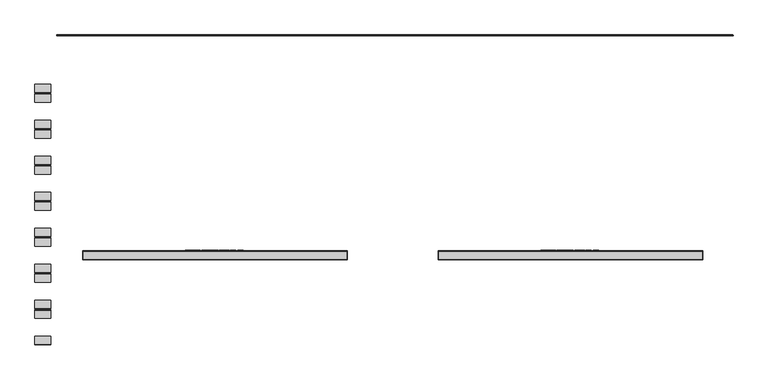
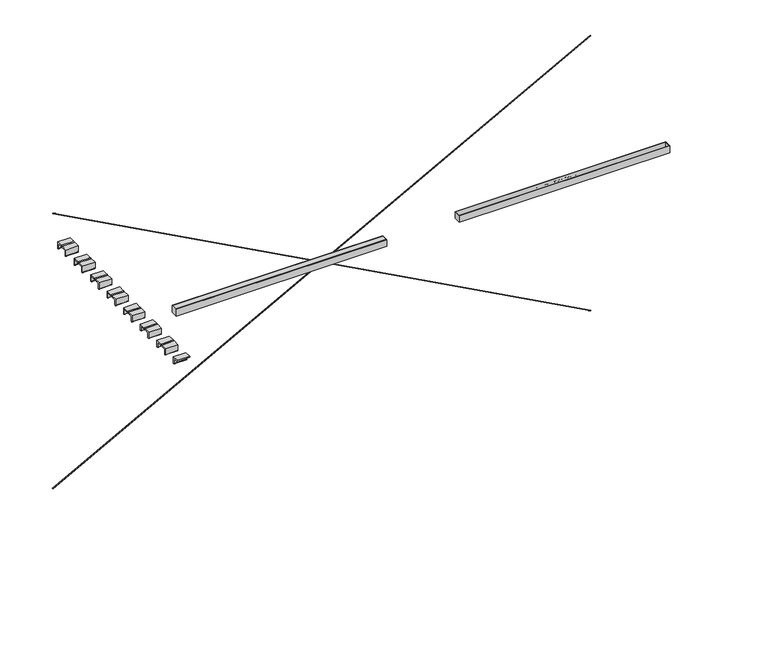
"""IFC4 building model written with IfcOpenShell, lengths in millimetres: proxy geometry, Ponto de ônibus_final : Ponto de ônibus_final."""

from ifc_helpers import new_model, si_unit, point, frame, frame_2d, origin, place, context, project, spatial, polyline, circle_curve, trimmed, segment, composite_curve, outline, extrude, source, transform, mapped, element, save


def generic_models_1a11b9a9(model_context):
    return source(origin(), model_context, "Body", "SweptSolid", [
        extrude(outline(polyline([(2179.7607837, 371.6538462), (2179.7607837, 370.4230769), (2178.5288126, 370.0264423), (2177.7499664, 369.0576923), (2177.4530914, 367.5817308), (2177.677851, 366.2956731), (2178.2956395, 365.4651442), (2179.1213606, 365.1923077), (2179.8893895, 365.3966346), (2180.4482837, 366.2331731), (2180.9182356, 368.0252404), (2181.5252068, 369.9543269), (2182.4410722, 371.0012019), (2183.6646299, 371.3461538), (2185.0576587, 370.9194712), (2186.0408318, 369.6730769), (2186.3761683, 367.8485577), (2186.0252068, 365.9014423), (2184.9939568, 364.6033654), (2183.4530914, 364.1153846), (2183.4530914, 365.3461538), (2184.7175145, 366.0432692), (2185.1453991, 367.8004808), (2184.7223222, 369.5625), (2183.7006876, 370.1153846), (2182.8473222, 369.7235577), (2182.1598222, 367.7139423), (2181.5420337, 365.5360577), (2180.5444376, 364.3449519), (2179.1526106, 363.9615385), (2177.6802549, 364.4026442), (2176.6057356, 365.671875), (2176.2223222, 367.5336538), (2176.6357837, 369.7319712), (2177.880976, 371.1225962), (2179.7607837, 371.6538462)])), frame((0.0, -960.0, 0.0), z_axis=(0.0, 1.0, 0.0), x_axis=(0.0, 0.0, 1.0)), (0.0, 0.0, 1.0), 2.0),
        extrude(outline(polyline([(2176.3761683, 359.6538462), (2184.9915529, 359.6538462), (2184.9915529, 362.8846154), (2186.2223222, 362.8846154), (2186.2223222, 355.1923077), (2184.9915529, 355.1923077), (2184.9915529, 358.4230769), (2176.3761683, 358.4230769), (2176.3761683, 359.6538462)])), frame((0.0, -960.0, 0.0), z_axis=(0.0, 1.0, 0.0), x_axis=(0.0, 0.0, 1.0)), (0.0, 0.0, 1.0), 2.0),
        extrude(outline(polyline([(2176.3761683, 353.8076923), (2186.2223222, 353.8076923), (2186.2223222, 352.5769231), (2177.6069376, 352.5769231), (2177.6069376, 347.6538462), (2176.3761683, 347.6538462), (2176.3761683, 353.8076923)])), frame((0.0, -960.0, 0.0), z_axis=(0.0, 1.0, 0.0), x_axis=(0.0, 0.0, 1.0)), (0.0, 0.0, 1.0), 2.0),
        extrude(outline(polyline([(2176.3761683, 342.4230769), (2186.2223222, 342.4230769), (2186.2223222, 340.3052885), (2179.2824183, 338.2908654), (2177.8328991, 337.8846154), (2179.4026106, 337.4447115), (2186.2223222, 335.4639423), (2186.2223222, 333.3461538), (2176.3761683, 333.3461538), (2176.3761683, 334.5769231), (2184.9915529, 334.5769231), (2176.3761683, 337.0504808), (2176.3761683, 338.71875), (2184.9915529, 341.1923077), (2176.3761683, 341.1923077), (2176.3761683, 342.4230769)])), frame((0.0, -960.0, 0.0), z_axis=(0.0, 1.0, 0.0), x_axis=(0.0, 0.0, 1.0)), (0.0, 0.0, 1.0), 2.0),
        extrude(outline(polyline([(329.8076923, -958.0), (331.0384615, -958.0), (331.0384615, -960.0), (329.8076923, -960.0), (329.8076923, -958.0)])), frame((0.0, 0.0, 2176.3761683), z_axis=(0.0, 0.0, 1.0), x_axis=(1.0, 0.0, 0.0)), (0.0, 0.0, 1.0), 9.8461538),
        extrude(outline(polyline([(2179.8761683, 320.4230769), (2179.5588606, 319.1923077), (2177.0768895, 320.6514423), (2176.2223222, 323.2283654), (2176.8689568, 325.7896635), (2178.7415529, 327.2920673), (2181.3737645, 327.8076923), (2184.0492452, 327.2247596), (2185.7836202, 325.5673077), (2186.3761683, 323.2019231), (2185.6093414, 320.7367788), (2183.4506876, 319.3461538), (2183.1574183, 320.5769231), (2184.6706395, 321.5865385), (2185.1453991, 323.25), (2184.6189568, 325.1754808), (2183.2054952, 326.2632212), (2181.3761683, 326.5769231), (2179.255976, 326.2055288), (2177.9014087, 325.0492788), (2177.4530914, 323.3509615), (2178.0636683, 321.4675481), (2179.8761683, 320.4230769)])), frame((0.0, -960.0, 0.0), z_axis=(0.0, 1.0, 0.0), x_axis=(0.0, 0.0, 1.0)), (0.0, 0.0, 1.0), 2.0),
        extrude(outline(polyline([(2176.3761683, 317.5), (2186.2223222, 317.5), (2186.2223222, 313.2572115), (2185.9566972, 311.2872596), (2185.0167933, 310.2103365), (2183.5276106, 309.8076923), (2181.7535722, 310.4747596), (2180.8377068, 312.5360577), (2180.3112645, 311.8365385), (2179.0444376, 310.8389423), (2176.3761683, 309.1971154), (2176.3761683, 310.6274038), (2178.4170337, 311.9086538), (2179.7679952, 312.8341346), (2180.4062164, 313.484375), (2180.6838606, 316.2692308), (2176.3761683, 316.2692308), (2176.3761683, 317.5)]), holes=[polyline([(2181.9146299, 316.2692308), (2181.9146299, 313.5144231), (2182.0889087, 312.109375), (2182.646601, 311.3112981), (2183.4819376, 311.0384615), (2184.5660722, 311.5588942), (2184.9915529, 313.2043269), (2184.9915529, 316.2692308), (2181.9146299, 316.2692308)])]), frame((0.0, -960.0, 0.0), z_axis=(0.0, 1.0, 0.0), x_axis=(0.0, 0.0, 1.0)), (0.0, 0.0, 1.0), 2.0),
        extrude(outline(polyline([(2181.1694376, 308.1153846), (2184.9939568, 306.8028846), (2186.3761683, 303.4158654), (2185.7271299, 300.9663462), (2183.9170337, 299.3028846), (2181.2824183, 298.7307692), (2178.6117452, 299.3329327), (2176.8280914, 301.0396635), (2176.2223222, 303.4230769), (2176.8917933, 305.8990385), (2178.7187164, 307.5528846), (2181.1694376, 308.1153846)]), holes=[polyline([(2181.1574183, 306.8846154), (2178.443476, 305.9002404), (2177.4530914, 303.4302885), (2178.4530914, 300.9387019), (2181.2920337, 299.9615385), (2183.3232837, 300.3798077), (2184.6682356, 301.6021635), (2185.1453991, 303.4086538), (2184.2259279, 305.8581731), (2181.1574183, 306.8846154)])]), frame((0.0, -960.0, 0.0), z_axis=(0.0, 1.0, 0.0), x_axis=(0.0, 0.0, 1.0)), (0.0, 0.0, 1.0), 2.0),
        extrude(outline(polyline([(2176.3761683, 293.1923077), (2186.2223222, 293.1923077), (2186.2223222, 288.9495192), (2185.9566972, 286.9795673), (2185.0167933, 285.9026442), (2183.5276106, 285.5), (2181.7535722, 286.1670673), (2180.8377068, 288.2283654), (2180.3112645, 287.5288462), (2179.0444376, 286.53125), (2176.3761683, 284.8894231), (2176.3761683, 286.3197115), (2178.4170337, 287.6009615), (2179.7679952, 288.5264423), (2180.4062164, 289.1766827), (2180.6838606, 291.9615385), (2176.3761683, 291.9615385), (2176.3761683, 293.1923077)]), holes=[polyline([(2181.9146299, 291.9615385), (2181.9146299, 289.2067308), (2182.0889087, 287.8016827), (2182.646601, 287.0036058), (2183.4819376, 286.7307692), (2184.5660722, 287.2512019), (2184.9915529, 288.8966346), (2184.9915529, 291.9615385), (2181.9146299, 291.9615385)])]), frame((0.0, -960.0, 0.0), z_axis=(0.0, 1.0, 0.0), x_axis=(0.0, 0.0, 1.0)), (0.0, 0.0, 1.0), 2.0),
        extrude(outline(polyline([(2176.3761683, 283.3461538), (2186.2223222, 283.3461538), (2186.2223222, 276.2692308), (2184.9915529, 276.2692308), (2184.9915529, 282.1153846), (2182.068476, 282.1153846), (2182.068476, 276.5769231), (2180.8377068, 276.5769231), (2180.8377068, 282.1153846), (2177.6069376, 282.1153846), (2177.6069376, 276.1153846), (2176.3761683, 276.1153846), (2176.3761683, 283.3461538)])), frame((0.0, -960.0, 0.0), z_axis=(0.0, 1.0, 0.0), x_axis=(0.0, 0.0, 1.0)), (0.0, 0.0, 1.0), 2.0),
        extrude(outline(polyline([(2179.8761683, 267.3461538), (2179.5588606, 266.1153846), (2177.0768895, 267.5745192), (2176.2223222, 270.1514423), (2176.8689568, 272.7127404), (2178.7415529, 274.2151442), (2181.3737645, 274.7307692), (2184.0492452, 274.1478365), (2185.7836202, 272.4903846), (2186.3761683, 270.125), (2185.6093414, 267.6598558), (2183.4506876, 266.2692308), (2183.1574183, 267.5), (2184.6706395, 268.5096154), (2185.1453991, 270.1730769), (2184.6189568, 272.0985577), (2183.2054952, 273.1862981), (2181.3761683, 273.5), (2179.255976, 273.1286058), (2177.9014087, 271.9723558), (2177.4530914, 270.2740385), (2178.0636683, 268.390625), (2179.8761683, 267.3461538)])), frame((0.0, -960.0, 0.0), z_axis=(0.0, 1.0, 0.0), x_axis=(0.0, 0.0, 1.0)), (0.0, 0.0, 1.0), 2.0),
        extrude(outline(polyline([(2176.3761683, 264.4230769), (2186.2223222, 264.4230769), (2186.2223222, 257.3461538), (2184.9915529, 257.3461538), (2184.9915529, 263.1923077), (2182.068476, 263.1923077), (2182.068476, 257.6538462), (2180.8377068, 257.6538462), (2180.8377068, 263.1923077), (2177.6069376, 263.1923077), (2177.6069376, 257.1923077), (2176.3761683, 257.1923077), (2176.3761683, 264.4230769)])), frame((0.0, -960.0, 0.0), z_axis=(0.0, 1.0, 0.0), x_axis=(0.0, 0.0, 1.0)), (0.0, 0.0, 1.0), 2.0),
        extrude(outline(polyline([(2179.7607837, 255.8076923), (2179.7607837, 254.5769231), (2178.5288126, 254.1802885), (2177.7499664, 253.2115385), (2177.4530914, 251.7355769), (2177.677851, 250.4495192), (2178.2956395, 249.6189904), (2179.1213606, 249.3461538), (2179.8893895, 249.5504808), (2180.4482837, 250.3870192), (2180.9182356, 252.1790865), (2181.5252068, 254.1081731), (2182.4410722, 255.1550481), (2183.6646299, 255.5), (2185.0576587, 255.0733173), (2186.0408318, 253.8269231), (2186.3761683, 252.0024038), (2186.0252068, 250.0552885), (2184.9939568, 248.7572115), (2183.4530914, 248.2692308), (2183.4530914, 249.5), (2184.7175145, 250.1971154), (2185.1453991, 251.9543269), (2184.7223222, 253.7163462), (2183.7006876, 254.2692308), (2182.8473222, 253.8774038), (2182.1598222, 251.8677885), (2181.5420337, 249.6899038), (2180.5444376, 248.4987981), (2179.1526106, 248.1153846), (2177.6802549, 248.5564904), (2176.6057356, 249.8257212), (2176.2223222, 251.6875), (2176.6357837, 253.8858173), (2177.880976, 255.2764423), (2179.7607837, 255.8076923)])), frame((0.0, -960.0, 0.0), z_axis=(0.0, 1.0, 0.0), x_axis=(0.0, 0.0, 1.0)), (0.0, 0.0, 1.0), 2.0),
        extrude(outline(polyline([(2179.7607837, 246.7307692), (2179.7607837, 245.5), (2178.5288126, 245.1033654), (2177.7499664, 244.1346154), (2177.4530914, 242.6586538), (2177.677851, 241.3725962), (2178.2956395, 240.5420673), (2179.1213606, 240.2692308), (2179.8893895, 240.4735577), (2180.4482837, 241.3100962), (2180.9182356, 243.1021635), (2181.5252068, 245.03125), (2182.4410722, 246.078125), (2183.6646299, 246.4230769), (2185.0576587, 245.9963942), (2186.0408318, 244.75), (2186.3761683, 242.9254808), (2186.0252068, 240.9783654), (2184.9939568, 239.6802885), (2183.4530914, 239.1923077), (2183.4530914, 240.4230769), (2184.7175145, 241.1201923), (2185.1453991, 242.8774038), (2184.7223222, 244.6394231), (2183.7006876, 245.1923077), (2182.8473222, 244.8004808), (2182.1598222, 242.7908654), (2181.5420337, 240.6129808), (2180.5444376, 239.421875), (2179.1526106, 239.0384615), (2177.6802549, 239.4795673), (2176.6057356, 240.7487981), (2176.2223222, 242.6105769), (2176.6357837, 244.8088942), (2177.880976, 246.1995192), (2179.7607837, 246.7307692)])), frame((0.0, -960.0, 0.0), z_axis=(0.0, 1.0, 0.0), x_axis=(0.0, 0.0, 1.0)), (0.0, 0.0, 1.0), 2.0),
        extrude(outline(polyline([(2176.3761683, 237.1923077), (2186.2223222, 237.1923077), (2186.2223222, 230.1153846), (2184.9915529, 230.1153846), (2184.9915529, 235.9615385), (2182.068476, 235.9615385), (2182.068476, 230.4230769), (2180.8377068, 230.4230769), (2180.8377068, 235.9615385), (2177.6069376, 235.9615385), (2177.6069376, 229.9615385), (2176.3761683, 229.9615385), (2176.3761683, 237.1923077)])), frame((0.0, -960.0, 0.0), z_axis=(0.0, 1.0, 0.0), x_axis=(0.0, 0.0, 1.0)), (0.0, 0.0, 1.0), 2.0),
        extrude(outline(polyline([(2176.3761683, 228.1153846), (2186.2223222, 228.1153846), (2186.2223222, 224.71875), (2186.0804952, 222.9615385), (2185.3761683, 221.5144231), (2183.693476, 220.3485577), (2181.3521299, 219.9615385), (2179.365351, 220.2235577), (2177.9314568, 220.8966346), (2177.0384279, 221.7956731), (2176.5444376, 222.9723558), (2176.3761683, 224.5552885), (2176.3761683, 228.1153846)]), holes=[polyline([(2177.6069376, 226.8846154), (2177.6069376, 224.7067308), (2177.7848222, 223.1225962), (2178.287226, 222.2091346), (2179.5095818, 221.4603365), (2181.3713606, 221.1923077), (2183.7030914, 221.7175481), (2184.7944376, 222.9951923), (2184.9915529, 224.7403846), (2184.9915529, 226.8846154), (2177.6069376, 226.8846154)])]), frame((0.0, -960.0, 0.0), z_axis=(0.0, 1.0, 0.0), x_axis=(0.0, 0.0, 1.0)), (0.0, 0.0, 1.0), 2.0),
        extrude(outline(polyline([(2176.3761683, 214.4230769), (2186.2223222, 214.4230769), (2186.2223222, 212.3052885), (2179.2824183, 210.2908654), (2177.8328991, 209.8846154), (2179.4026106, 209.4447115), (2186.2223222, 207.4639423), (2186.2223222, 205.3461538), (2176.3761683, 205.3461538), (2176.3761683, 206.5769231), (2184.9915529, 206.5769231), (2176.3761683, 209.0504808), (2176.3761683, 210.71875), (2184.9915529, 213.1923077), (2176.3761683, 213.1923077), (2176.3761683, 214.4230769)])), frame((0.0, -960.0, 0.0), z_axis=(0.0, 1.0, 0.0), x_axis=(0.0, 0.0, 1.0)), (0.0, 0.0, 1.0), 2.0),
        extrude(outline(polyline([(2181.1694376, 203.6538462), (2184.9939568, 202.3413462), (2186.3761683, 198.9543269), (2185.7271299, 196.5048077), (2183.9170337, 194.8413462), (2181.2824183, 194.2692308), (2178.6117452, 194.8713942), (2176.8280914, 196.578125), (2176.2223222, 198.9615385), (2176.8917933, 201.4375), (2178.7187164, 203.0913462), (2181.1694376, 203.6538462)]), holes=[polyline([(2181.1574183, 202.4230769), (2178.443476, 201.4387019), (2177.4530914, 198.96875), (2178.4530914, 196.4771635), (2181.2920337, 195.5), (2183.3232837, 195.9182692), (2184.6682356, 197.140625), (2185.1453991, 198.9471154), (2184.2259279, 201.3966346), (2181.1574183, 202.4230769)])]), frame((0.0, -960.0, 0.0), z_axis=(0.0, 1.0, 0.0), x_axis=(0.0, 0.0, 1.0)), (0.0, 0.0, 1.0), 2.0),
        extrude(outline(polyline([(2186.2223222, 186.1153846), (2186.2223222, 184.8846154), (2180.5420337, 184.8846154), (2178.1874664, 185.21875), (2176.7691972, 186.4230769), (2176.2223222, 188.7067308), (2176.6982837, 190.9555288), (2178.0768895, 192.203125), (2180.5420337, 192.5769231), (2186.2223222, 192.5769231), (2186.2223222, 191.3461538), (2180.5853029, 191.3461538), (2178.709101, 191.1033654), (2177.7800145, 190.2692308), (2177.4530914, 188.8221154), (2178.099726, 186.7379808), (2180.5853029, 186.1153846), (2186.2223222, 186.1153846)])), frame((0.0, -960.0, 0.0), z_axis=(0.0, 1.0, 0.0), x_axis=(0.0, 0.0, 1.0)), (0.0, 0.0, 1.0), 2.0),
        extrude(outline(polyline([(2176.3761683, 182.7307692), (2186.2223222, 182.7307692), (2186.2223222, 181.4134615), (2178.4218414, 176.2692308), (2186.2223222, 176.2692308), (2186.2223222, 175.0384615), (2176.3761683, 175.0384615), (2176.3761683, 176.3557692), (2184.1790529, 181.5), (2176.3761683, 181.5), (2176.3761683, 182.7307692)])), frame((0.0, -960.0, 0.0), z_axis=(0.0, 1.0, 0.0), x_axis=(0.0, 0.0, 1.0)), (0.0, 0.0, 1.0), 2.0),
        extrude(outline(polyline([(2176.3761683, 170.4230769), (2184.9915529, 170.4230769), (2184.9915529, 173.6538462), (2186.2223222, 173.6538462), (2186.2223222, 165.9615385), (2184.9915529, 165.9615385), (2184.9915529, 169.1923077), (2176.3761683, 169.1923077), (2176.3761683, 170.4230769)])), frame((0.0, -960.0, 0.0), z_axis=(0.0, 1.0, 0.0), x_axis=(0.0, 0.0, 1.0)), (0.0, 0.0, 1.0), 2.0),
        extrude(outline(polyline([(2176.3761683, 164.5769231), (2186.2223222, 164.5769231), (2186.2223222, 157.5), (2184.9915529, 157.5), (2184.9915529, 163.3461538), (2182.068476, 163.3461538), (2182.068476, 157.8076923), (2180.8377068, 157.8076923), (2180.8377068, 163.3461538), (2177.6069376, 163.3461538), (2177.6069376, 157.3461538), (2176.3761683, 157.3461538), (2176.3761683, 164.5769231)])), frame((0.0, -960.0, 0.0), z_axis=(0.0, 1.0, 0.0), x_axis=(0.0, 0.0, 1.0)), (0.0, 0.0, 1.0), 2.0),
        extrude(outline(polyline([(2176.3761683, 155.5), (2186.2223222, 155.5), (2186.2223222, 152.1033654), (2186.0804952, 150.3461538), (2185.3761683, 148.8990385), (2183.693476, 147.7331731), (2181.3521299, 147.3461538), (2179.365351, 147.6081731), (2177.9314568, 148.28125), (2177.0384279, 149.1802885), (2176.5444376, 150.3569712), (2176.3761683, 151.9399038), (2176.3761683, 155.5)]), holes=[polyline([(2177.6069376, 154.2692308), (2177.6069376, 152.0913462), (2177.7848222, 150.5072115), (2178.287226, 149.59375), (2179.5095818, 148.8449519), (2181.3713606, 148.5769231), (2183.7030914, 149.1021635), (2184.7944376, 150.3798077), (2184.9915529, 152.125), (2184.9915529, 154.2692308), (2177.6069376, 154.2692308)])]), frame((0.0, -960.0, 0.0), z_axis=(0.0, 1.0, 0.0), x_axis=(0.0, 0.0, 1.0)), (0.0, 0.0, 1.0), 2.0),
        extrude(outline(polyline([(2176.3761683, 405.9230769), (2186.2223222, 405.9230769), (2186.2223222, 398.8461538), (2184.9915529, 398.8461538), (2184.9915529, 404.6923077), (2182.068476, 404.6923077), (2182.068476, 399.1538462), (2180.8377068, 399.1538462), (2180.8377068, 404.6923077), (2177.6069376, 404.6923077), (2177.6069376, 398.6923077), (2176.3761683, 398.6923077), (2176.3761683, 405.9230769)])), frame((0.0, -960.0, 0.0), z_axis=(0.0, 1.0, 0.0), x_axis=(0.0, 0.0, 1.0)), (0.0, 0.0, 1.0), 2.0),
        extrude(outline(polyline([(2176.3761683, 397.9927885), (2186.2223222, 394.0625), (2186.2223222, 393.0144231), (2176.3761683, 389.0841346), (2176.3761683, 390.3846154), (2179.4530914, 391.5120192), (2179.4530914, 395.5673077), (2176.3761683, 396.6923077), (2176.3761683, 397.9927885)]), holes=[polyline([(2180.6838606, 395.1153846), (2180.6838606, 391.9615385), (2183.1045337, 392.8485577), (2184.9915529, 393.5384615), (2183.3160722, 394.1514423), (2180.6838606, 395.1153846)])]), frame((0.0, -960.0, 0.0), z_axis=(0.0, 1.0, 0.0), x_axis=(0.0, 0.0, 1.0)), (0.0, 0.0, 1.0), 2.0),
        extrude(outline(polyline([(2176.3761683, 387.7692308), (2186.2223222, 387.7692308), (2186.2223222, 380.6923077), (2184.9915529, 380.6923077), (2184.9915529, 386.5384615), (2182.068476, 386.5384615), (2182.068476, 381.0), (2180.8377068, 381.0), (2180.8377068, 386.5384615), (2177.6069376, 386.5384615), (2177.6069376, 380.5384615), (2176.3761683, 380.5384615), (2176.3761683, 387.7692308)])), frame((0.0, -960.0, 0.0), z_axis=(0.0, 1.0, 0.0), x_axis=(0.0, 0.0, 1.0)), (0.0, 0.0, 1.0), 2.0),
        extrude(outline(polyline([(864.5, -997.0), (-305.5, -997.0), (-305.5, -963.0), (864.5, -963.0), (864.5, -997.0)])), frame((0.0, 0.0, 2160.0), z_axis=(0.0, 0.0, 1.0), x_axis=(1.0, 0.0, 0.0)), (0.0, 0.0, 1.0), 5.4682593),
        extrude(outline(polyline([(867.5, -1000.0), (-308.5, -1000.0), (-308.5, -960.0), (867.5, -960.0), (867.5, -1000.0)]), holes=[polyline([(864.5, -997.0), (864.5, -963.0), (-305.5, -963.0), (-305.5, -997.0), (864.5, -997.0)])]), frame((0.0, 0.0, 2160.0), z_axis=(0.0, 0.0, 1.0), x_axis=(1.0, 0.0, 0.0)), (0.0, 0.0, 1.0), 40.0),
        extrude(outline(polyline([(-715.0, -997.0), (-1885.0, -997.0), (-1885.0, -963.0), (-715.0, -963.0), (-715.0, -997.0)])), frame((0.0, 0.0, 2198.5), z_axis=(0.0, 0.0, 1.0), x_axis=(1.0, 0.0, 0.0)), (0.0, 0.0, 1.0), 1.5),
        extrude(outline(polyline([(2179.7607837, -1207.8461538), (2179.7607837, -1209.0769231), (2178.5288126, -1209.4735577), (2177.7499664, -1210.4423077), (2177.4530914, -1211.9182692), (2177.677851, -1213.2043269), (2178.2956395, -1214.0348558), (2179.1213606, -1214.3076923), (2179.8893895, -1214.1033654), (2180.4482837, -1213.2668269), (2180.9182356, -1211.4747596), (2181.5252068, -1209.5456731), (2182.4410722, -1208.4987981), (2183.6646299, -1208.1538462), (2185.0576587, -1208.5805288), (2186.0408318, -1209.8269231), (2186.3761683, -1211.6514423), (2186.0252068, -1213.5985577), (2184.9939568, -1214.8966346), (2183.4530914, -1215.3846154), (2183.4530914, -1214.1538462), (2184.7175145, -1213.4567308), (2185.1453991, -1211.6995192), (2184.7223222, -1209.9375), (2183.7006876, -1209.3846154), (2182.8473222, -1209.7764423), (2182.1598222, -1211.7860577), (2181.5420337, -1213.9639423), (2180.5444376, -1215.1550481), (2179.1526106, -1215.5384615), (2177.6802549, -1215.0973558), (2176.6057356, -1213.828125), (2176.2223222, -1211.9663462), (2176.6357837, -1209.7680288), (2177.880976, -1208.3774038), (2179.7607837, -1207.8461538)])), frame((0.0, -960.0, 0.0), z_axis=(0.0, 1.0, 0.0), x_axis=(0.0, 0.0, 1.0)), (0.0, 0.0, 1.0), 2.0),
        extrude(outline(polyline([(2176.3761683, -1219.8461538), (2184.9915529, -1219.8461538), (2184.9915529, -1216.6153846), (2186.2223222, -1216.6153846), (2186.2223222, -1224.3076923), (2184.9915529, -1224.3076923), (2184.9915529, -1221.0769231), (2176.3761683, -1221.0769231), (2176.3761683, -1219.8461538)])), frame((0.0, -960.0, 0.0), z_axis=(0.0, 1.0, 0.0), x_axis=(0.0, 0.0, 1.0)), (0.0, 0.0, 1.0), 2.0),
        extrude(outline(polyline([(2176.3761683, -1225.6923077), (2186.2223222, -1225.6923077), (2186.2223222, -1226.9230769), (2177.6069376, -1226.9230769), (2177.6069376, -1231.8461538), (2176.3761683, -1231.8461538), (2176.3761683, -1225.6923077)])), frame((0.0, -960.0, 0.0), z_axis=(0.0, 1.0, 0.0), x_axis=(0.0, 0.0, 1.0)), (0.0, 0.0, 1.0), 2.0),
        extrude(outline(polyline([(2176.3761683, -1237.0769231), (2186.2223222, -1237.0769231), (2186.2223222, -1239.1947115), (2179.2824183, -1241.2091346), (2177.8328991, -1241.6153846), (2179.4026106, -1242.0552885), (2186.2223222, -1244.0360577), (2186.2223222, -1246.1538462), (2176.3761683, -1246.1538462), (2176.3761683, -1244.9230769), (2184.9915529, -1244.9230769), (2176.3761683, -1242.4495192), (2176.3761683, -1240.78125), (2184.9915529, -1238.3076923), (2176.3761683, -1238.3076923), (2176.3761683, -1237.0769231)])), frame((0.0, -960.0, 0.0), z_axis=(0.0, 1.0, 0.0), x_axis=(0.0, 0.0, 1.0)), (0.0, 0.0, 1.0), 2.0),
        extrude(outline(polyline([(-1249.6923077, -958.0), (-1248.4615385, -958.0), (-1248.4615385, -960.0), (-1249.6923077, -960.0), (-1249.6923077, -958.0)])), frame((0.0, 0.0, 2176.3761683), z_axis=(0.0, 0.0, 1.0), x_axis=(1.0, 0.0, 0.0)), (0.0, 0.0, 1.0), 9.8461538),
        extrude(outline(polyline([(2179.8761683, -1259.0769231), (2179.5588606, -1260.3076923), (2177.0768895, -1258.8485577), (2176.2223222, -1256.2716346), (2176.8689568, -1253.7103365), (2178.7415529, -1252.2079327), (2181.3737645, -1251.6923077), (2184.0492452, -1252.2752404), (2185.7836202, -1253.9326923), (2186.3761683, -1256.2980769), (2185.6093414, -1258.7632212), (2183.4506876, -1260.1538462), (2183.1574183, -1258.9230769), (2184.6706395, -1257.9134615), (2185.1453991, -1256.25), (2184.6189568, -1254.3245192), (2183.2054952, -1253.2367788), (2181.3761683, -1252.9230769), (2179.255976, -1253.2944712), (2177.9014087, -1254.4507212), (2177.4530914, -1256.1490385), (2178.0636683, -1258.0324519), (2179.8761683, -1259.0769231)])), frame((0.0, -960.0, 0.0), z_axis=(0.0, 1.0, 0.0), x_axis=(0.0, 0.0, 1.0)), (0.0, 0.0, 1.0), 2.0),
        extrude(outline(polyline([(2176.3761683, -1262.0), (2186.2223222, -1262.0), (2186.2223222, -1266.2427885), (2185.9566972, -1268.2127404), (2185.0167933, -1269.2896635), (2183.5276106, -1269.6923077), (2181.7535722, -1269.0252404), (2180.8377068, -1266.9639423), (2180.3112645, -1267.6634615), (2179.0444376, -1268.6610577), (2176.3761683, -1270.3028846), (2176.3761683, -1268.8725962), (2178.4170337, -1267.5913462), (2179.7679952, -1266.6658654), (2180.4062164, -1266.015625), (2180.6838606, -1263.2307692), (2176.3761683, -1263.2307692), (2176.3761683, -1262.0)]), holes=[polyline([(2181.9146299, -1263.2307692), (2181.9146299, -1265.9855769), (2182.0889087, -1267.390625), (2182.646601, -1268.1887019), (2183.4819376, -1268.4615385), (2184.5660722, -1267.9411058), (2184.9915529, -1266.2956731), (2184.9915529, -1263.2307692), (2181.9146299, -1263.2307692)])]), frame((0.0, -960.0, 0.0), z_axis=(0.0, 1.0, 0.0), x_axis=(0.0, 0.0, 1.0)), (0.0, 0.0, 1.0), 2.0),
        extrude(outline(polyline([(2181.1694376, -1271.3846154), (2184.9939568, -1272.6971154), (2186.3761683, -1276.0841346), (2185.7271299, -1278.5336538), (2183.9170337, -1280.1971154), (2181.2824183, -1280.7692308), (2178.6117452, -1280.1670673), (2176.8280914, -1278.4603365), (2176.2223222, -1276.0769231), (2176.8917933, -1273.6009615), (2178.7187164, -1271.9471154), (2181.1694376, -1271.3846154)]), holes=[polyline([(2181.1574183, -1272.6153846), (2178.443476, -1273.5997596), (2177.4530914, -1276.0697115), (2178.4530914, -1278.5612981), (2181.2920337, -1279.5384615), (2183.3232837, -1279.1201923), (2184.6682356, -1277.8978365), (2185.1453991, -1276.0913462), (2184.2259279, -1273.6418269), (2181.1574183, -1272.6153846)])]), frame((0.0, -960.0, 0.0), z_axis=(0.0, 1.0, 0.0), x_axis=(0.0, 0.0, 1.0)), (0.0, 0.0, 1.0), 2.0),
        extrude(outline(polyline([(2176.3761683, -1286.3076923), (2186.2223222, -1286.3076923), (2186.2223222, -1290.5504808), (2185.9566972, -1292.5204327), (2185.0167933, -1293.5973558), (2183.5276106, -1294.0), (2181.7535722, -1293.3329327), (2180.8377068, -1291.2716346), (2180.3112645, -1291.9711538), (2179.0444376, -1292.96875), (2176.3761683, -1294.6105769), (2176.3761683, -1293.1802885), (2178.4170337, -1291.8990385), (2179.7679952, -1290.9735577), (2180.4062164, -1290.3233173), (2180.6838606, -1287.5384615), (2176.3761683, -1287.5384615), (2176.3761683, -1286.3076923)]), holes=[polyline([(2181.9146299, -1287.5384615), (2181.9146299, -1290.2932692), (2182.0889087, -1291.6983173), (2182.646601, -1292.4963942), (2183.4819376, -1292.7692308), (2184.5660722, -1292.2487981), (2184.9915529, -1290.6033654), (2184.9915529, -1287.5384615), (2181.9146299, -1287.5384615)])]), frame((0.0, -960.0, 0.0), z_axis=(0.0, 1.0, 0.0), x_axis=(0.0, 0.0, 1.0)), (0.0, 0.0, 1.0), 2.0),
        extrude(outline(polyline([(2176.3761683, -1296.1538462), (2186.2223222, -1296.1538462), (2186.2223222, -1303.2307692), (2184.9915529, -1303.2307692), (2184.9915529, -1297.3846154), (2182.068476, -1297.3846154), (2182.068476, -1302.9230769), (2180.8377068, -1302.9230769), (2180.8377068, -1297.3846154), (2177.6069376, -1297.3846154), (2177.6069376, -1303.3846154), (2176.3761683, -1303.3846154), (2176.3761683, -1296.1538462)])), frame((0.0, -960.0, 0.0), z_axis=(0.0, 1.0, 0.0), x_axis=(0.0, 0.0, 1.0)), (0.0, 0.0, 1.0), 2.0),
        extrude(outline(polyline([(2179.8761683, -1312.1538462), (2179.5588606, -1313.3846154), (2177.0768895, -1311.9254808), (2176.2223222, -1309.3485577), (2176.8689568, -1306.7872596), (2178.7415529, -1305.2848558), (2181.3737645, -1304.7692308), (2184.0492452, -1305.3521635), (2185.7836202, -1307.0096154), (2186.3761683, -1309.375), (2185.6093414, -1311.8401442), (2183.4506876, -1313.2307692), (2183.1574183, -1312.0), (2184.6706395, -1310.9903846), (2185.1453991, -1309.3269231), (2184.6189568, -1307.4014423), (2183.2054952, -1306.3137019), (2181.3761683, -1306.0), (2179.255976, -1306.3713942), (2177.9014087, -1307.5276442), (2177.4530914, -1309.2259615), (2178.0636683, -1311.109375), (2179.8761683, -1312.1538462)])), frame((0.0, -960.0, 0.0), z_axis=(0.0, 1.0, 0.0), x_axis=(0.0, 0.0, 1.0)), (0.0, 0.0, 1.0), 2.0),
        extrude(outline(polyline([(2176.3761683, -1315.0769231), (2186.2223222, -1315.0769231), (2186.2223222, -1322.1538462), (2184.9915529, -1322.1538462), (2184.9915529, -1316.3076923), (2182.068476, -1316.3076923), (2182.068476, -1321.8461538), (2180.8377068, -1321.8461538), (2180.8377068, -1316.3076923), (2177.6069376, -1316.3076923), (2177.6069376, -1322.3076923), (2176.3761683, -1322.3076923), (2176.3761683, -1315.0769231)])), frame((0.0, -960.0, 0.0), z_axis=(0.0, 1.0, 0.0), x_axis=(0.0, 0.0, 1.0)), (0.0, 0.0, 1.0), 2.0),
        extrude(outline(polyline([(2179.7607837, -1323.6923077), (2179.7607837, -1324.9230769), (2178.5288126, -1325.3197115), (2177.7499664, -1326.2884615), (2177.4530914, -1327.7644231), (2177.677851, -1329.0504808), (2178.2956395, -1329.8810096), (2179.1213606, -1330.1538462), (2179.8893895, -1329.9495192), (2180.4482837, -1329.1129808), (2180.9182356, -1327.3209135), (2181.5252068, -1325.3918269), (2182.4410722, -1324.3449519), (2183.6646299, -1324.0), (2185.0576587, -1324.4266827), (2186.0408318, -1325.6730769), (2186.3761683, -1327.4975962), (2186.0252068, -1329.4447115), (2184.9939568, -1330.7427885), (2183.4530914, -1331.2307692), (2183.4530914, -1330.0), (2184.7175145, -1329.3028846), (2185.1453991, -1327.5456731), (2184.7223222, -1325.7836538), (2183.7006876, -1325.2307692), (2182.8473222, -1325.6225962), (2182.1598222, -1327.6322115), (2181.5420337, -1329.8100962), (2180.5444376, -1331.0012019), (2179.1526106, -1331.3846154), (2177.6802549, -1330.9435096), (2176.6057356, -1329.6742788), (2176.2223222, -1327.8125), (2176.6357837, -1325.6141827), (2177.880976, -1324.2235577), (2179.7607837, -1323.6923077)])), frame((0.0, -960.0, 0.0), z_axis=(0.0, 1.0, 0.0), x_axis=(0.0, 0.0, 1.0)), (0.0, 0.0, 1.0), 2.0),
        extrude(outline(polyline([(2179.7607837, -1332.7692308), (2179.7607837, -1334.0), (2178.5288126, -1334.3966346), (2177.7499664, -1335.3653846), (2177.4530914, -1336.8413462), (2177.677851, -1338.1274038), (2178.2956395, -1338.9579327), (2179.1213606, -1339.2307692), (2179.8893895, -1339.0264423), (2180.4482837, -1338.1899038), (2180.9182356, -1336.3978365), (2181.5252068, -1334.46875), (2182.4410722, -1333.421875), (2183.6646299, -1333.0769231), (2185.0576587, -1333.5036058), (2186.0408318, -1334.75), (2186.3761683, -1336.5745192), (2186.0252068, -1338.5216346), (2184.9939568, -1339.8197115), (2183.4530914, -1340.3076923), (2183.4530914, -1339.0769231), (2184.7175145, -1338.3798077), (2185.1453991, -1336.6225962), (2184.7223222, -1334.8605769), (2183.7006876, -1334.3076923), (2182.8473222, -1334.6995192), (2182.1598222, -1336.7091346), (2181.5420337, -1338.8870192), (2180.5444376, -1340.078125), (2179.1526106, -1340.4615385), (2177.6802549, -1340.0204327), (2176.6057356, -1338.7512019), (2176.2223222, -1336.8894231), (2176.6357837, -1334.6911058), (2177.880976, -1333.3004808), (2179.7607837, -1332.7692308)])), frame((0.0, -960.0, 0.0), z_axis=(0.0, 1.0, 0.0), x_axis=(0.0, 0.0, 1.0)), (0.0, 0.0, 1.0), 2.0),
        extrude(outline(polyline([(2176.3761683, -1342.3076923), (2186.2223222, -1342.3076923), (2186.2223222, -1349.3846154), (2184.9915529, -1349.3846154), (2184.9915529, -1343.5384615), (2182.068476, -1343.5384615), (2182.068476, -1349.0769231), (2180.8377068, -1349.0769231), (2180.8377068, -1343.5384615), (2177.6069376, -1343.5384615), (2177.6069376, -1349.5384615), (2176.3761683, -1349.5384615), (2176.3761683, -1342.3076923)])), frame((0.0, -960.0, 0.0), z_axis=(0.0, 1.0, 0.0), x_axis=(0.0, 0.0, 1.0)), (0.0, 0.0, 1.0), 2.0),
        extrude(outline(polyline([(2176.3761683, -1351.3846154), (2186.2223222, -1351.3846154), (2186.2223222, -1354.78125), (2186.0804952, -1356.5384615), (2185.3761683, -1357.9855769), (2183.693476, -1359.1514423), (2181.3521299, -1359.5384615), (2179.365351, -1359.2764423), (2177.9314568, -1358.6033654), (2177.0384279, -1357.7043269), (2176.5444376, -1356.5276442), (2176.3761683, -1354.9447115), (2176.3761683, -1351.3846154)]), holes=[polyline([(2177.6069376, -1352.6153846), (2177.6069376, -1354.7932692), (2177.7848222, -1356.3774038), (2178.287226, -1357.2908654), (2179.5095818, -1358.0396635), (2181.3713606, -1358.3076923), (2183.7030914, -1357.7824519), (2184.7944376, -1356.5048077), (2184.9915529, -1354.7596154), (2184.9915529, -1352.6153846), (2177.6069376, -1352.6153846)])]), frame((0.0, -960.0, 0.0), z_axis=(0.0, 1.0, 0.0), x_axis=(0.0, 0.0, 1.0)), (0.0, 0.0, 1.0), 2.0),
        extrude(outline(polyline([(2176.3761683, -1365.0769231), (2186.2223222, -1365.0769231), (2186.2223222, -1367.1947115), (2179.2824183, -1369.2091346), (2177.8328991, -1369.6153846), (2179.4026106, -1370.0552885), (2186.2223222, -1372.0360577), (2186.2223222, -1374.1538462), (2176.3761683, -1374.1538462), (2176.3761683, -1372.9230769), (2184.9915529, -1372.9230769), (2176.3761683, -1370.4495192), (2176.3761683, -1368.78125), (2184.9915529, -1366.3076923), (2176.3761683, -1366.3076923), (2176.3761683, -1365.0769231)])), frame((0.0, -960.0, 0.0), z_axis=(0.0, 1.0, 0.0), x_axis=(0.0, 0.0, 1.0)), (0.0, 0.0, 1.0), 2.0),
        extrude(outline(polyline([(2181.1694376, -1375.8461538), (2184.9939568, -1377.1586538), (2186.3761683, -1380.5456731), (2185.7271299, -1382.9951923), (2183.9170337, -1384.6586538), (2181.2824183, -1385.2307692), (2178.6117452, -1384.6286058), (2176.8280914, -1382.921875), (2176.2223222, -1380.5384615), (2176.8917933, -1378.0625), (2178.7187164, -1376.4086538), (2181.1694376, -1375.8461538)]), holes=[polyline([(2181.1574183, -1377.0769231), (2178.443476, -1378.0612981), (2177.4530914, -1380.53125), (2178.4530914, -1383.0228365), (2181.2920337, -1384.0), (2183.3232837, -1383.5817308), (2184.6682356, -1382.359375), (2185.1453991, -1380.5528846), (2184.2259279, -1378.1033654), (2181.1574183, -1377.0769231)])]), frame((0.0, -960.0, 0.0), z_axis=(0.0, 1.0, 0.0), x_axis=(0.0, 0.0, 1.0)), (0.0, 0.0, 1.0), 2.0),
        extrude(outline(polyline([(2186.2223222, -1393.3846154), (2186.2223222, -1394.6153846), (2180.5420337, -1394.6153846), (2178.1874664, -1394.28125), (2176.7691972, -1393.0769231), (2176.2223222, -1390.7932692), (2176.6982837, -1388.5444712), (2178.0768895, -1387.296875), (2180.5420337, -1386.9230769), (2186.2223222, -1386.9230769), (2186.2223222, -1388.1538462), (2180.5853029, -1388.1538462), (2178.709101, -1388.3966346), (2177.7800145, -1389.2307692), (2177.4530914, -1390.6778846), (2178.099726, -1392.7620192), (2180.5853029, -1393.3846154), (2186.2223222, -1393.3846154)])), frame((0.0, -960.0, 0.0), z_axis=(0.0, 1.0, 0.0), x_axis=(0.0, 0.0, 1.0)), (0.0, 0.0, 1.0), 2.0),
        extrude(outline(polyline([(2176.3761683, -1396.7692308), (2186.2223222, -1396.7692308), (2186.2223222, -1398.0865385), (2178.4218414, -1403.2307692), (2186.2223222, -1403.2307692), (2186.2223222, -1404.4615385), (2176.3761683, -1404.4615385), (2176.3761683, -1403.1442308), (2184.1790529, -1398.0), (2176.3761683, -1398.0), (2176.3761683, -1396.7692308)])), frame((0.0, -960.0, 0.0), z_axis=(0.0, 1.0, 0.0), x_axis=(0.0, 0.0, 1.0)), (0.0, 0.0, 1.0), 2.0),
        extrude(outline(polyline([(2176.3761683, -1409.0769231), (2184.9915529, -1409.0769231), (2184.9915529, -1405.8461538), (2186.2223222, -1405.8461538), (2186.2223222, -1413.5384615), (2184.9915529, -1413.5384615), (2184.9915529, -1410.3076923), (2176.3761683, -1410.3076923), (2176.3761683, -1409.0769231)])), frame((0.0, -960.0, 0.0), z_axis=(0.0, 1.0, 0.0), x_axis=(0.0, 0.0, 1.0)), (0.0, 0.0, 1.0), 2.0),
        extrude(outline(polyline([(2176.3761683, -1414.9230769), (2186.2223222, -1414.9230769), (2186.2223222, -1422.0), (2184.9915529, -1422.0), (2184.9915529, -1416.1538462), (2182.068476, -1416.1538462), (2182.068476, -1421.6923077), (2180.8377068, -1421.6923077), (2180.8377068, -1416.1538462), (2177.6069376, -1416.1538462), (2177.6069376, -1422.1538462), (2176.3761683, -1422.1538462), (2176.3761683, -1414.9230769)])), frame((0.0, -960.0, 0.0), z_axis=(0.0, 1.0, 0.0), x_axis=(0.0, 0.0, 1.0)), (0.0, 0.0, 1.0), 2.0),
        extrude(outline(polyline([(2176.3761683, -1424.0), (2186.2223222, -1424.0), (2186.2223222, -1427.3966346), (2186.0804952, -1429.1538462), (2185.3761683, -1430.6009615), (2183.693476, -1431.7668269), (2181.3521299, -1432.1538462), (2179.365351, -1431.8918269), (2177.9314568, -1431.21875), (2177.0384279, -1430.3197115), (2176.5444376, -1429.1430288), (2176.3761683, -1427.5600962), (2176.3761683, -1424.0)]), holes=[polyline([(2177.6069376, -1425.2307692), (2177.6069376, -1427.4086538), (2177.7848222, -1428.9927885), (2178.287226, -1429.90625), (2179.5095818, -1430.6550481), (2181.3713606, -1430.9230769), (2183.7030914, -1430.3978365), (2184.7944376, -1429.1201923), (2184.9915529, -1427.375), (2184.9915529, -1425.2307692), (2177.6069376, -1425.2307692)])]), frame((0.0, -960.0, 0.0), z_axis=(0.0, 1.0, 0.0), x_axis=(0.0, 0.0, 1.0)), (0.0, 0.0, 1.0), 2.0),
        extrude(outline(polyline([(2176.3761683, -1173.5769231), (2186.2223222, -1173.5769231), (2186.2223222, -1180.6538462), (2184.9915529, -1180.6538462), (2184.9915529, -1174.8076923), (2182.068476, -1174.8076923), (2182.068476, -1180.3461538), (2180.8377068, -1180.3461538), (2180.8377068, -1174.8076923), (2177.6069376, -1174.8076923), (2177.6069376, -1180.8076923), (2176.3761683, -1180.8076923), (2176.3761683, -1173.5769231)])), frame((0.0, -960.0, 0.0), z_axis=(0.0, 1.0, 0.0), x_axis=(0.0, 0.0, 1.0)), (0.0, 0.0, 1.0), 2.0),
        extrude(outline(polyline([(2176.3761683, -1181.5072115), (2186.2223222, -1185.4375), (2186.2223222, -1186.4855769), (2176.3761683, -1190.4158654), (2176.3761683, -1189.1153846), (2179.4530914, -1187.9879808), (2179.4530914, -1183.9326923), (2176.3761683, -1182.8076923), (2176.3761683, -1181.5072115)]), holes=[polyline([(2180.6838606, -1184.3846154), (2180.6838606, -1187.5384615), (2183.1045337, -1186.6514423), (2184.9915529, -1185.9615385), (2183.3160722, -1185.3485577), (2180.6838606, -1184.3846154)])]), frame((0.0, -960.0, 0.0), z_axis=(0.0, 1.0, 0.0), x_axis=(0.0, 0.0, 1.0)), (0.0, 0.0, 1.0), 2.0),
        extrude(outline(polyline([(2176.3761683, -1191.7307692), (2186.2223222, -1191.7307692), (2186.2223222, -1198.8076923), (2184.9915529, -1198.8076923), (2184.9915529, -1192.9615385), (2182.068476, -1192.9615385), (2182.068476, -1198.5), (2180.8377068, -1198.5), (2180.8377068, -1192.9615385), (2177.6069376, -1192.9615385), (2177.6069376, -1198.9615385), (2176.3761683, -1198.9615385), (2176.3761683, -1191.7307692)])), frame((0.0, -960.0, 0.0), z_axis=(0.0, 1.0, 0.0), x_axis=(0.0, 0.0, 1.0)), (0.0, 0.0, 1.0), 2.0),
        extrude(outline(polyline([(-715.0, -997.0), (-1885.0, -997.0), (-1885.0, -963.0), (-715.0, -963.0), (-715.0, -997.0)])), frame((0.0, 0.0, 2160.0), z_axis=(0.0, 0.0, 1.0), x_axis=(1.0, 0.0, 0.0)), (0.0, 0.0, 1.0), 5.4682593),
        extrude(outline(polyline([(-712.0, -1000.0), (-1888.0, -1000.0), (-1888.0, -960.0), (-712.0, -960.0), (-712.0, -1000.0)]), holes=[polyline([(-715.0, -997.0), (-715.0, -963.0), (-1885.0, -963.0), (-1885.0, -997.0), (-715.0, -997.0)])]), frame((0.0, 0.0, 2160.0), z_axis=(0.0, 0.0, 1.0), x_axis=(1.0, 0.0, 0.0)), (0.0, 0.0, 1.0), 40.0),
        extrude(outline(composite_curve([segment(trimmed(circle_curve(frame_2d((0.0, -2.0)), 2.0), [point((0.0, -4.0))], [point((0.0, 0.0))], False, "CARTESIAN"), True, "CONTINUOUS"), segment(trimmed(circle_curve(frame_2d((0.0, -2.0)), 2.0), [point((0.0, 0.0))], [point((0.0, -4.0))], False, "CARTESIAN"), True, "CONTINUOUS")], self_intersect=False)), frame((1002.665594, -2.320429, 578.5949624), z_axis=(-0.8796309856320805, 0.0, 0.4756567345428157), x_axis=(0.0, -1.0, 0.0)), (0.0, 0.0, 1.0), 3412.7921884),
        extrude(outline(composite_curve([segment(trimmed(circle_curve(frame_2d((0.0, -2.0)), 2.0), [point((0.0, -4.0))], [point((0.0, 0.0))], False, "CARTESIAN"), True, "CONTINUOUS"), segment(trimmed(circle_curve(frame_2d((0.0, -2.0)), 2.0), [point((0.0, 0.0))], [point((0.0, -4.0))], False, "CARTESIAN"), True, "CONTINUOUS")], self_intersect=False)), frame((-2002.665594, -2.320429, 578.5949624), z_axis=(0.8796309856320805, 0.0, 0.4756567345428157), x_axis=(0.0, 1.0, 0.0)), (0.0, 0.0, 1.0), 3412.7921884),
        extrude(outline(composite_curve([segment(trimmed(circle_curve(frame_2d((-223.175, 2165.075)), 3.175), [point((-220.0, 2165.075))], [point((-226.35, 2165.075))], False, "CARTESIAN"), True, "CONTINUOUS"), segment(polyline([(-226.35, 2165.075), (-226.35, 2193.65), (-254.925, 2193.65)]), True, "CONTINUOUS"), segment(trimmed(circle_curve(frame_2d((-254.925, 2196.825)), 3.175), [point((-254.925, 2193.65))], [point((-254.925, 2200.0))], False, "CARTESIAN"), True, "CONTINUOUS"), segment(polyline([(-254.925, 2200.0), (-220.0, 2200.0), (-220.0, 2165.075)]), True, "CONTINUOUS")], self_intersect=False)), frame((-2100.1200113, 0.0, 0.0), z_axis=(1.0, 0.0, 0.0), x_axis=(0.0, 1.0, 0.0)), (0.0, 0.0, 1.0), 70.1200113),
        extrude(outline(composite_curve([segment(polyline([(-300.0, 2165.075), (-300.0, 2200.0), (-265.075, 2200.0)]), True, "CONTINUOUS"), segment(trimmed(circle_curve(frame_2d((-265.075, 2196.825)), 3.175), [point((-265.075, 2200.0))], [point((-265.075, 2193.65))], False, "CARTESIAN"), True, "CONTINUOUS"), segment(polyline([(-265.075, 2193.65), (-293.65, 2193.65), (-293.65, 2165.075)]), True, "CONTINUOUS"), segment(trimmed(circle_curve(frame_2d((-296.825, 2165.075)), 3.175), [point((-293.65, 2165.075))], [point((-300.0, 2165.075))], False, "CARTESIAN"), True, "CONTINUOUS")], self_intersect=False)), frame((-2100.0, 0.0, 0.0), z_axis=(1.0, 0.0, 0.0), x_axis=(0.0, 1.0, 0.0)), (0.0, 0.0, 1.0), 70.0),
        extrude(outline(composite_curve([segment(trimmed(circle_curve(frame_2d((-383.175, 2165.075)), 3.175), [point((-380.0, 2165.075))], [point((-386.35, 2165.075))], False, "CARTESIAN"), True, "CONTINUOUS"), segment(polyline([(-386.35, 2165.075), (-386.35, 2193.65), (-414.925, 2193.65)]), True, "CONTINUOUS"), segment(trimmed(circle_curve(frame_2d((-414.925, 2196.825)), 3.175), [point((-414.925, 2193.65))], [point((-414.925, 2200.0))], False, "CARTESIAN"), True, "CONTINUOUS"), segment(polyline([(-414.925, 2200.0), (-380.0, 2200.0), (-380.0, 2165.075)]), True, "CONTINUOUS")], self_intersect=False)), frame((-2100.1200113, 0.0, 0.0), z_axis=(1.0, 0.0, 0.0), x_axis=(0.0, 1.0, 0.0)), (0.0, 0.0, 1.0), 70.1200113),
        extrude(outline(composite_curve([segment(polyline([(-460.0, 2165.075), (-460.0, 2200.0), (-425.075, 2200.0)]), True, "CONTINUOUS"), segment(trimmed(circle_curve(frame_2d((-425.075, 2196.825)), 3.175), [point((-425.075, 2200.0))], [point((-425.075, 2193.65))], False, "CARTESIAN"), True, "CONTINUOUS"), segment(polyline([(-425.075, 2193.65), (-453.65, 2193.65), (-453.65, 2165.075)]), True, "CONTINUOUS"), segment(trimmed(circle_curve(frame_2d((-456.825, 2165.075)), 3.175), [point((-453.65, 2165.075))], [point((-460.0, 2165.075))], False, "CARTESIAN"), True, "CONTINUOUS")], self_intersect=False)), frame((-2100.0, 0.0, 0.0), z_axis=(1.0, 0.0, 0.0), x_axis=(0.0, 1.0, 0.0)), (0.0, 0.0, 1.0), 70.0),
        extrude(outline(composite_curve([segment(trimmed(circle_curve(frame_2d((-543.175, 2165.075)), 3.175), [point((-540.0, 2165.075))], [point((-546.35, 2165.075))], False, "CARTESIAN"), True, "CONTINUOUS"), segment(polyline([(-546.35, 2165.075), (-546.35, 2193.65), (-574.925, 2193.65)]), True, "CONTINUOUS"), segment(trimmed(circle_curve(frame_2d((-574.925, 2196.825)), 3.175), [point((-574.925, 2193.65))], [point((-574.925, 2200.0))], False, "CARTESIAN"), True, "CONTINUOUS"), segment(polyline([(-574.925, 2200.0), (-540.0, 2200.0), (-540.0, 2165.075)]), True, "CONTINUOUS")], self_intersect=False)), frame((-2100.1200113, 0.0, 0.0), z_axis=(1.0, 0.0, 0.0), x_axis=(0.0, 1.0, 0.0)), (0.0, 0.0, 1.0), 70.1200113),
        extrude(outline(composite_curve([segment(polyline([(-620.0, 2165.075), (-620.0, 2200.0), (-585.075, 2200.0)]), True, "CONTINUOUS"), segment(trimmed(circle_curve(frame_2d((-585.075, 2196.825)), 3.175), [point((-585.075, 2200.0))], [point((-585.075, 2193.65))], False, "CARTESIAN"), True, "CONTINUOUS"), segment(polyline([(-585.075, 2193.65), (-613.65, 2193.65), (-613.65, 2165.075)]), True, "CONTINUOUS"), segment(trimmed(circle_curve(frame_2d((-616.825, 2165.075)), 3.175), [point((-613.65, 2165.075))], [point((-620.0, 2165.075))], False, "CARTESIAN"), True, "CONTINUOUS")], self_intersect=False)), frame((-2100.0, 0.0, 0.0), z_axis=(1.0, 0.0, 0.0), x_axis=(0.0, 1.0, 0.0)), (0.0, 0.0, 1.0), 70.0),
        extrude(outline(composite_curve([segment(trimmed(circle_curve(frame_2d((-703.175, 2165.075)), 3.175), [point((-700.0, 2165.075))], [point((-706.35, 2165.075))], False, "CARTESIAN"), True, "CONTINUOUS"), segment(polyline([(-706.35, 2165.075), (-706.35, 2193.65), (-734.925, 2193.65)]), True, "CONTINUOUS"), segment(trimmed(circle_curve(frame_2d((-734.925, 2196.825)), 3.175), [point((-734.925, 2193.65))], [point((-734.925, 2200.0))], False, "CARTESIAN"), True, "CONTINUOUS"), segment(polyline([(-734.925, 2200.0), (-700.0, 2200.0), (-700.0, 2165.075)]), True, "CONTINUOUS")], self_intersect=False)), frame((-2100.1200113, 0.0, 0.0), z_axis=(1.0, 0.0, 0.0), x_axis=(0.0, 1.0, 0.0)), (0.0, 0.0, 1.0), 70.1200113),
        extrude(outline(composite_curve([segment(polyline([(-780.0, 2165.075), (-780.0, 2200.0), (-745.075, 2200.0)]), True, "CONTINUOUS"), segment(trimmed(circle_curve(frame_2d((-745.075, 2196.825)), 3.175), [point((-745.075, 2200.0))], [point((-745.075, 2193.65))], False, "CARTESIAN"), True, "CONTINUOUS"), segment(polyline([(-745.075, 2193.65), (-773.65, 2193.65), (-773.65, 2165.075)]), True, "CONTINUOUS"), segment(trimmed(circle_curve(frame_2d((-776.825, 2165.075)), 3.175), [point((-773.65, 2165.075))], [point((-780.0, 2165.075))], False, "CARTESIAN"), True, "CONTINUOUS")], self_intersect=False)), frame((-2100.0, 0.0, 0.0), z_axis=(1.0, 0.0, 0.0), x_axis=(0.0, 1.0, 0.0)), (0.0, 0.0, 1.0), 70.0),
        extrude(outline(composite_curve([segment(trimmed(circle_curve(frame_2d((-863.175, 2165.075)), 3.175), [point((-860.0, 2165.075))], [point((-866.35, 2165.075))], False, "CARTESIAN"), True, "CONTINUOUS"), segment(polyline([(-866.35, 2165.075), (-866.35, 2193.65), (-894.925, 2193.65)]), True, "CONTINUOUS"), segment(trimmed(circle_curve(frame_2d((-894.925, 2196.825)), 3.175), [point((-894.925, 2193.65))], [point((-894.925, 2200.0))], False, "CARTESIAN"), True, "CONTINUOUS"), segment(polyline([(-894.925, 2200.0), (-860.0, 2200.0), (-860.0, 2165.075)]), True, "CONTINUOUS")], self_intersect=False)), frame((-2100.1200113, 0.0, 0.0), z_axis=(1.0, 0.0, 0.0), x_axis=(0.0, 1.0, 0.0)), (0.0, 0.0, 1.0), 70.1200113),
        extrude(outline(composite_curve([segment(polyline([(-940.0, 2165.075), (-940.0, 2200.0), (-905.075, 2200.0)]), True, "CONTINUOUS"), segment(trimmed(circle_curve(frame_2d((-905.075, 2196.825)), 3.175), [point((-905.075, 2200.0))], [point((-905.075, 2193.65))], False, "CARTESIAN"), True, "CONTINUOUS"), segment(polyline([(-905.075, 2193.65), (-933.65, 2193.65), (-933.65, 2165.075)]), True, "CONTINUOUS"), segment(trimmed(circle_curve(frame_2d((-936.825, 2165.075)), 3.175), [point((-933.65, 2165.075))], [point((-940.0, 2165.075))], False, "CARTESIAN"), True, "CONTINUOUS")], self_intersect=False)), frame((-2100.0, 0.0, 0.0), z_axis=(1.0, 0.0, 0.0), x_axis=(0.0, 1.0, 0.0)), (0.0, 0.0, 1.0), 70.0),
        extrude(outline(composite_curve([segment(trimmed(circle_curve(frame_2d((-1023.175, 2165.075)), 3.175), [point((-1020.0, 2165.075))], [point((-1026.35, 2165.075))], False, "CARTESIAN"), True, "CONTINUOUS"), segment(polyline([(-1026.35, 2165.075), (-1026.35, 2193.65), (-1054.925, 2193.65)]), True, "CONTINUOUS"), segment(trimmed(circle_curve(frame_2d((-1054.925, 2196.825)), 3.175), [point((-1054.925, 2193.65))], [point((-1054.925, 2200.0))], False, "CARTESIAN"), True, "CONTINUOUS"), segment(polyline([(-1054.925, 2200.0), (-1020.0, 2200.0), (-1020.0, 2165.075)]), True, "CONTINUOUS")], self_intersect=False)), frame((-2100.1200113, 0.0, 0.0), z_axis=(1.0, 0.0, 0.0), x_axis=(0.0, 1.0, 0.0)), (0.0, 0.0, 1.0), 70.1200113),
        extrude(outline(composite_curve([segment(polyline([(-1100.0, 2165.075), (-1100.0, 2200.0), (-1065.075, 2200.0)]), True, "CONTINUOUS"), segment(trimmed(circle_curve(frame_2d((-1065.075, 2196.825)), 3.175), [point((-1065.075, 2200.0))], [point((-1065.075, 2193.65))], False, "CARTESIAN"), True, "CONTINUOUS"), segment(polyline([(-1065.075, 2193.65), (-1093.65, 2193.65), (-1093.65, 2165.075)]), True, "CONTINUOUS"), segment(trimmed(circle_curve(frame_2d((-1096.825, 2165.075)), 3.175), [point((-1093.65, 2165.075))], [point((-1100.0, 2165.075))], False, "CARTESIAN"), True, "CONTINUOUS")], self_intersect=False)), frame((-2100.0, 0.0, 0.0), z_axis=(1.0, 0.0, 0.0), x_axis=(0.0, 1.0, 0.0)), (0.0, 0.0, 1.0), 70.0),
        extrude(outline(composite_curve([segment(trimmed(circle_curve(frame_2d((-1183.175, 2165.075)), 3.175), [point((-1180.0, 2165.075))], [point((-1186.35, 2165.075))], False, "CARTESIAN"), True, "CONTINUOUS"), segment(polyline([(-1186.35, 2165.075), (-1186.35, 2193.65), (-1214.925, 2193.65)]), True, "CONTINUOUS"), segment(trimmed(circle_curve(frame_2d((-1214.925, 2196.825)), 3.175), [point((-1214.925, 2193.65))], [point((-1214.925, 2200.0))], False, "CARTESIAN"), True, "CONTINUOUS"), segment(polyline([(-1214.925, 2200.0), (-1180.0, 2200.0), (-1180.0, 2165.075)]), True, "CONTINUOUS")], self_intersect=False)), frame((-2100.1200113, 0.0, 0.0), z_axis=(1.0, 0.0, 0.0), x_axis=(0.0, 1.0, 0.0)), (0.0, 0.0, 1.0), 70.1200113),
        extrude(outline(composite_curve([segment(polyline([(-1260.0, 2165.075), (-1260.0, 2200.0), (-1225.075, 2200.0)]), True, "CONTINUOUS"), segment(trimmed(circle_curve(frame_2d((-1225.075, 2196.825)), 3.175), [point((-1225.075, 2200.0))], [point((-1225.075, 2193.65))], False, "CARTESIAN"), True, "CONTINUOUS"), segment(polyline([(-1225.075, 2193.65), (-1253.65, 2193.65), (-1253.65, 2165.075)]), True, "CONTINUOUS"), segment(trimmed(circle_curve(frame_2d((-1256.825, 2165.075)), 3.175), [point((-1253.65, 2165.075))], [point((-1260.0, 2165.075))], False, "CARTESIAN"), True, "CONTINUOUS")], self_intersect=False)), frame((-2100.0, 0.0, 0.0), z_axis=(1.0, 0.0, 0.0), x_axis=(0.0, 1.0, 0.0)), (0.0, 0.0, 1.0), 70.0),
        extrude(outline(composite_curve([segment(trimmed(circle_curve(frame_2d((-1343.175, 2165.075)), 3.175), [point((-1340.0, 2165.075))], [point((-1346.35, 2165.075))], False, "CARTESIAN"), True, "CONTINUOUS"), segment(polyline([(-1346.35, 2165.075), (-1346.35, 2193.65), (-1374.925, 2193.65)]), True, "CONTINUOUS"), segment(trimmed(circle_curve(frame_2d((-1374.925, 2196.825)), 3.175), [point((-1374.925, 2193.65))], [point((-1374.925, 2200.0))], False, "CARTESIAN"), True, "CONTINUOUS"), segment(polyline([(-1374.925, 2200.0), (-1340.0, 2200.0), (-1340.0, 2165.075)]), True, "CONTINUOUS")], self_intersect=False)), frame((-2100.1200113, 0.0, 0.0), z_axis=(1.0, 0.0, 0.0), x_axis=(0.0, 1.0, 0.0)), (0.0, 0.0, 1.0), 70.1200113),
    ])


if __name__ == "__main__":
    model = new_model("IFC4")
    model_context = context("Model", 3, world=origin())
    ifc_project = project(units=[si_unit("LENGTHUNIT", "METRE", prefix="MILLI")], contexts=[model_context])
    site = spatial("IfcSite", under=ifc_project)
    building = spatial("IfcBuilding", under=site)
    placement = place(None, origin())
    generic_models_shape = generic_models_1a11b9a9(model_context)
    element("IfcBuildingElementProxy", 1, Name="Ponto de ônibus_final : Ponto de ônibus_final", ObjectType="Ponto de ônibus_final : Ponto de ônibus_final", at=placement, inside=building, context=model_context, shape_type="MappedRepresentation", body=[
        mapped(generic_models_shape, transform((0.0, 0.0, 0.0), x_axis=(1.0, 0.0, 0.0), y_axis=(0.0, 1.0, 0.0), z_axis=(0.0, 0.0, 1.0))),
    ])
    save(model, "model.ifc")
